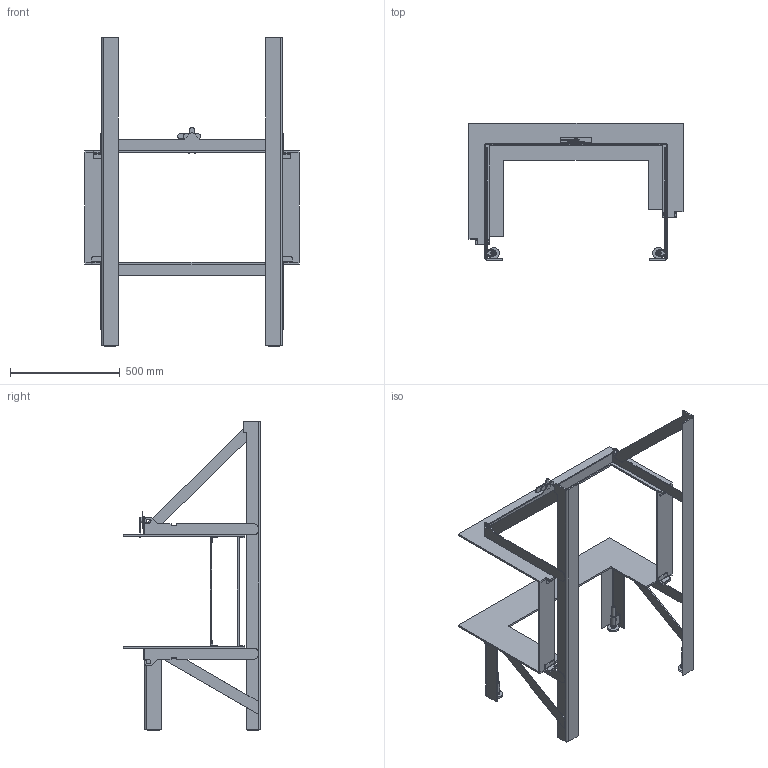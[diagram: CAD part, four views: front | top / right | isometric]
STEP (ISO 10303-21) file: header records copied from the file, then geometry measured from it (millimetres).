
FILE_DESCRIPTION(/* description */ (''),/* implementation_level */ '2;1');
FILE_NAME(/* name */ 'C:\ADSK_DM_WS\CAD_3D\03 Geraete\RAS 50x80x42\Zeichnungen\2023-00829.stp',/* time_stamp */ '2023-04-27T06:58:48+02:00',/* author */ ('CPI'),/* organization */ (''),/* preprocessor_version */ 'ST-DEVELOPER v18.1',/* originating_system */ 'Autodesk Inventor 2022',/* authorisation */ '');
FILE_SCHEMA (('AUTOMOTIVE_DESIGN { 1 0 10303 214 3 1 1 }'));
Length unit declared in the file: millimetre
Products named in the file (1): 2023-01152
Bounding box: 975 x 623.27 x 1406 mm (x, y, z)
Volume: 8490397 mm3; surface area: 2754594.3 mm2
Topology: 8 solids, 8 shells, 862 faces, 2359 edges, 1500 vertices
Faces by surface type: plane 469, cylinder 325, cone 68
Full cylindrical faces by diameter (mm): 10 x1, 10.21 x2, 16 x9, 20 x2, 25 x2, 30 x4
Entity records: 28086 total; most frequent: CARTESIAN_POINT 5444, ORIENTED_EDGE 4718, DIRECTION 4632, EDGE_CURVE 2359, AXIS2_PLACEMENT_3D 1580, VERTEX_POINT 1500, LINE 1472, VECTOR 1472
